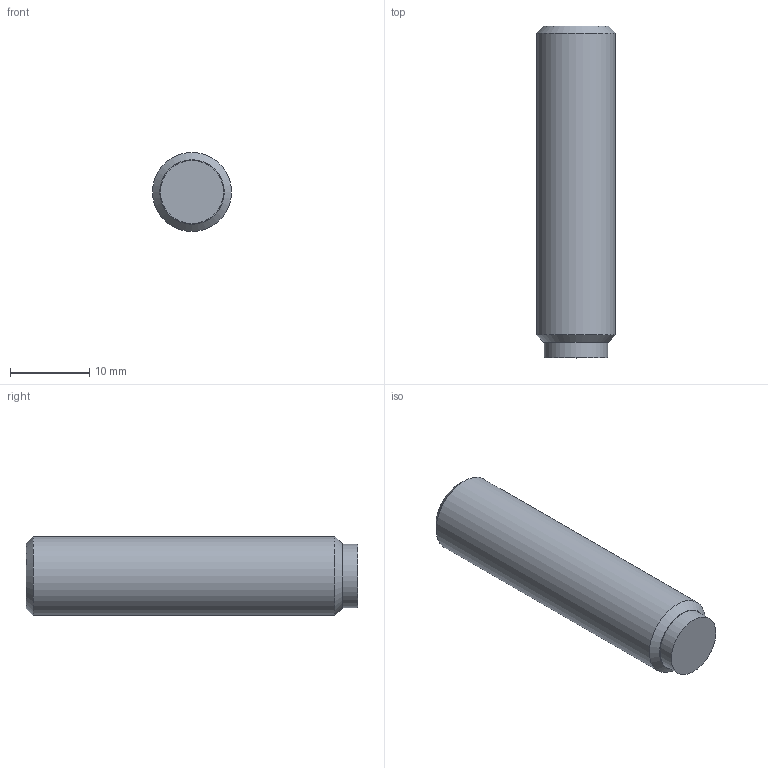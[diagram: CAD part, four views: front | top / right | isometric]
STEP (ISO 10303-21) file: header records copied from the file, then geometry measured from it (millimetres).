
FILE_DESCRIPTION( ( 'STEP AP203' ), '1' );
FILE_NAME( 'C:/Temp/Ganter_Step_05_03_2020/data/3_2/gn913_3/Grub screw GN 913.3-M10-40-MS.stp', '2020-03-13T05:35:52', ( 'License CC BY-ND 4.0' ), ( 'CADENAS' ), ' ', 'PARTsolutions', ' ' );
FILE_SCHEMA( ( 'CONFIG_CONTROL_DESIGN' ) );
Length unit declared in the file: millimetre
Products named in the file (1): _Grub screw GN 913.3-M10-40-MS
Bounding box: 10 x 42 x 10 mm (x, y, z)
Volume: 3087.3 mm3; surface area: 1531.8 mm2
Topology: 1 solids, 1 shells, 14 faces, 28 edges, 18 vertices
Faces by surface type: plane 10, cylinder 2, cone 2
Full cylindrical faces by diameter (mm): 8 x1, 10 x1
Entity records: 386 total; most frequent: DIRECTION 60, CARTESIAN_POINT 57, ORIENTED_EDGE 48, EDGE_CURVE 24, AXIS2_PLACEMENT_3D 21, EDGE_LOOP 20, VERTEX_POINT 18, LINE 18
